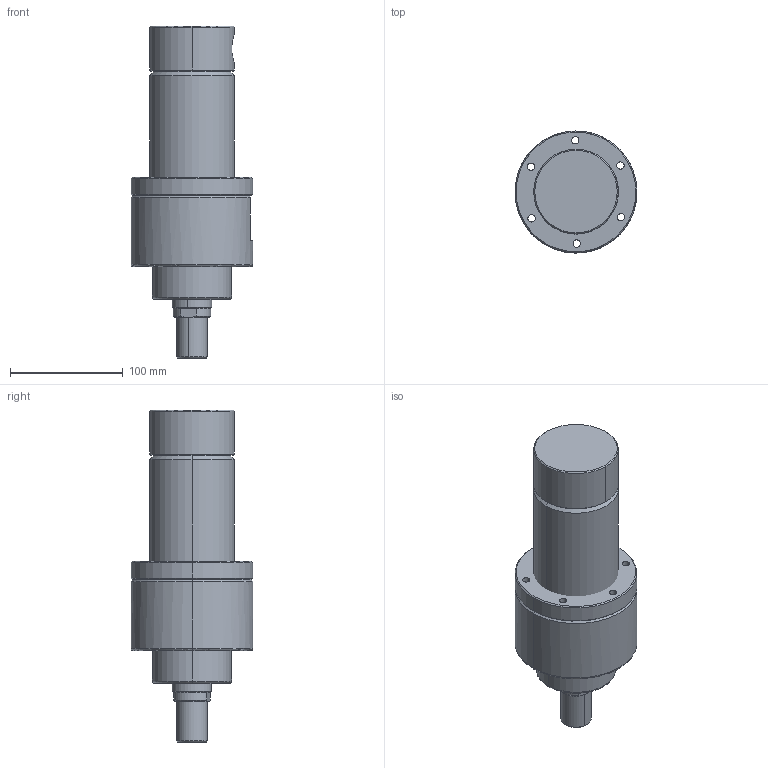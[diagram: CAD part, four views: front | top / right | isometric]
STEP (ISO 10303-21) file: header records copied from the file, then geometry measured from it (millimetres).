
FILE_DESCRIPTION (( 'STEP AP214' ), '1' );
FILE_NAME ('63-35-50-WEB.STEP', '2021-01-13T11:58:44', ( 'cagdas' ), ( '' ), 'SwSTEP 2.0', 'SolidWorks 2021', '' );
FILE_SCHEMA (( 'AUTOMOTIVE_DESIGN' ));
Length unit declared in the file: millimetre
Products named in the file (6): 35_K_MIL_WEB; 63_36_CETOP_烰_KAPAK; 63-35-50-WEB; 63_Gerdirme _Flansý; 63x75_BORU_WEB; TYAK_63_75
Assembly tree (5 placements, depth 2):
  63-35-50-WEB
    63x75_BORU_WEB
    TYAK_63_75
    63_36_CETOP_烰_KAPAK
    63_Gerdirme _Flansý
    35_K_MIL_WEB
Bounding box: 107.99 x 107.99 x 294 mm (x, y, z)
Volume: 1148703.9 mm3; surface area: 190796.9 mm2
Topology: 5 solids, 5 shells, 377 faces, 925 edges, 590 vertices
Faces by surface type: plane 120, cylinder 102, bspline 87, cone 64, torus 4
Entity records: 17203 total; most frequent: CARTESIAN_POINT 8379, ORIENTED_EDGE 1850, DIRECTION 1529, EDGE_CURVE 925, VERTEX_POINT 590, AXIS2_PLACEMENT_3D 575, EDGE_LOOP 443, VECTOR 379
